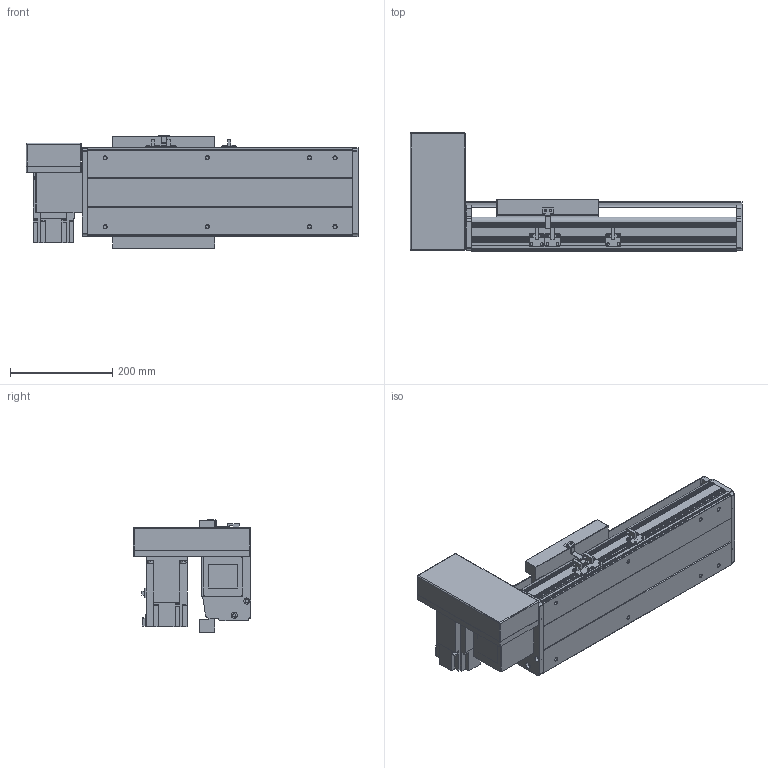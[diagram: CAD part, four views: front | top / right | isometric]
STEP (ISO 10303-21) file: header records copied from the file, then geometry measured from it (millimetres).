
FILE_DESCRIPTION(/* description */ ('STEP AP214'),/* implementation_level */ '2;1');
FILE_NAME(/* name */ 'PBS200-P40-S150-RU-T75-C1-N(0)',/* time_stamp */ '2022-06-11T09:33:54+02:00',/* author */ ('License CC BY-ND 4.0'),/* organization */ ('CADENAS'),/* preprocessor_version */ 'ST-DEVELOPER v18.102',/* originating_system */ 'PARTsolutions',/* authorisation */ ' ');
FILE_SCHEMA (('AUTOMOTIVE_DESIGN {1 0 10303 214 3 1 1}'));
Length unit declared in the file: millimetre
Products named in the file (7): PBS200-P40-S150-RU-T75-C1-N(0); PBS200_sensor; PBS200_plant; PBS200_sliser; T75-p1; PBS200T-RU_motors; PBS200-S150()_body
Assembly tree (8 placements, depth 2):
  PBS200-P40-S150-RU-T75-C1-N(0)
    PBS200_sensor  x3
    PBS200_plant
    PBS200_sliser
    T75-p1
    PBS200T-RU_motors
    PBS200-S150()_body
Bounding box: 650 x 231 x 221 mm (x, y, z)
Volume: 5929111.1 mm3; surface area: 982935.6 mm2
Topology: 8 solids, 8 shells, 896 faces, 2334 edges, 1524 vertices
Faces by surface type: plane 566, cylinder 290, cone 40
Full cylindrical faces by diameter (mm): 2.459 x6, 3.242 x4, 4.5 x6, 4.917 x4, 5 x6, 6 x7, 6.6 x8, 6.647 x12, 8 x6, 10 x4, 12 x8, 38 x2, 40 x1, 70 x1
Entity records: 24101 total; most frequent: DIRECTION 4231, CARTESIAN_POINT 4120, ORIENTED_EDGE 3934, EDGE_CURVE 1967, AXIS2_PLACEMENT_3D 1459, VERTEX_POINT 1348, LINE 1313, VECTOR 1313
